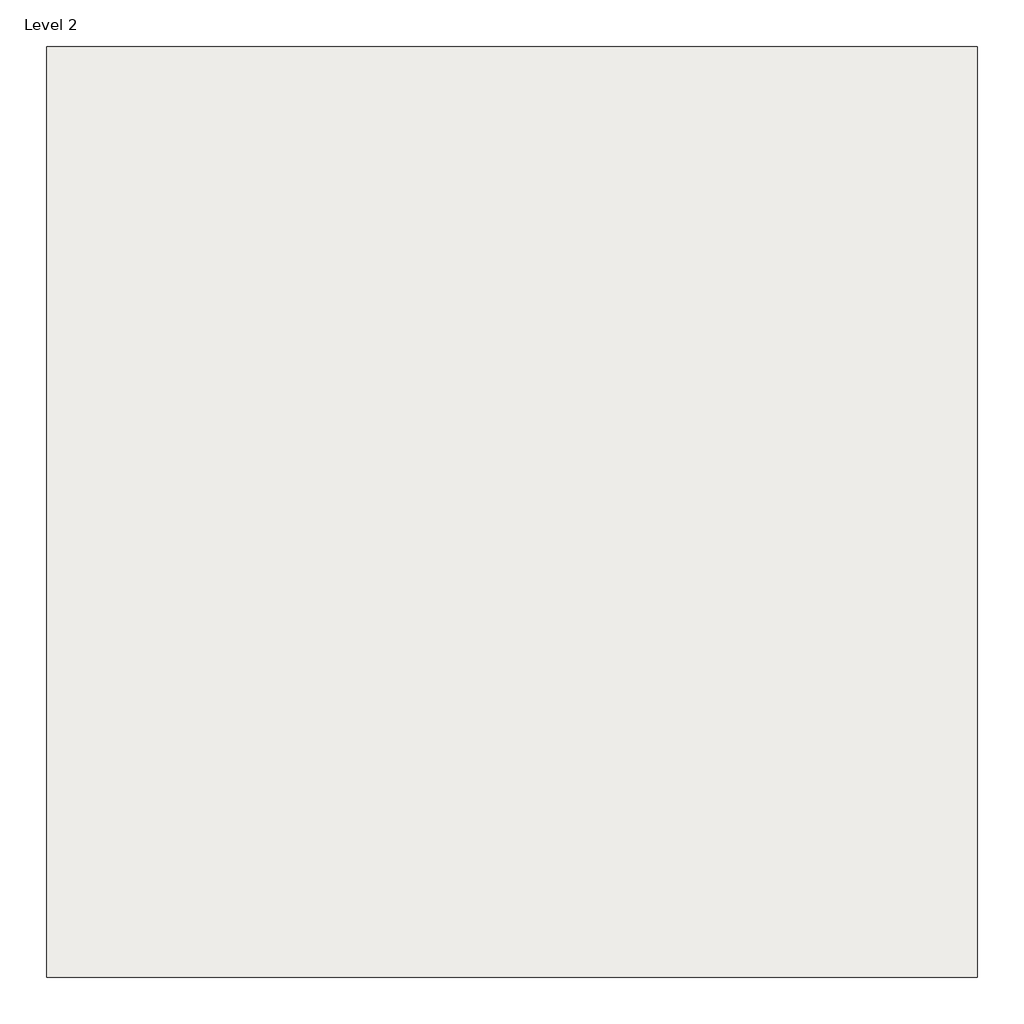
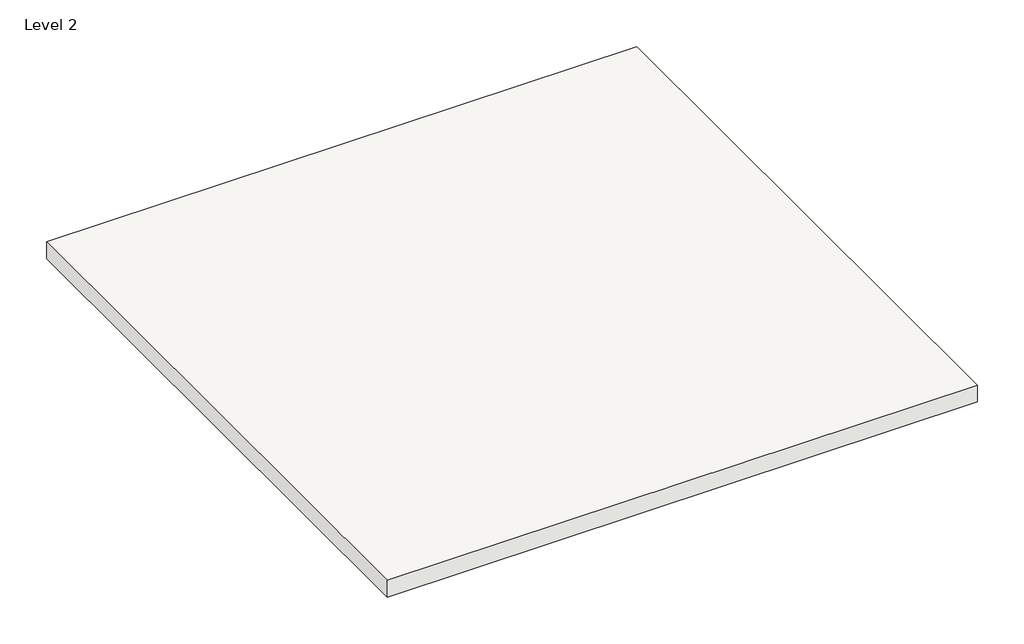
# One storey: 1 slab.
"""IFC4 building model written with IfcOpenShell, lengths in millimetres."""

from ifc_helpers import new_model, si_unit, frame, origin, place, context, project, spatial, polyline, outline, extrude, element, save

model = new_model("IFC4")

# Units and contexts
model_context = context("Model", 3, world=origin())
ifc_project = project(units=[si_unit("LENGTHUNIT", "METRE", prefix="MILLI")], contexts=[model_context])

# Site, building, storey
site = spatial("IfcSite", under=ifc_project)
building = spatial("IfcBuilding", under=site)
storey = spatial("IfcBuildingStorey", under=building, Name="Level 2", Elevation=3000.0)

# Slab
placement = place(None, origin())
element("IfcSlab", 1, ObjectType="Generic 150mm", at=placement, inside=storey, context=model_context, shape_type="SweptSolid", body=[
    extrude(outline(polyline([(5112.2416021, 28626.6149871), (5112.2416021, 23626.6149871), (112.2416021, 23626.6149871), (112.2416021, 28626.6149871), (5112.2416021, 28626.6149871)])), frame((0.0, 0.0, 2850.0), z_axis=(0.0, 0.0, 1.0), x_axis=(1.0, 0.0, 0.0)), (0.0, 0.0, 1.0), 150.0),
])

save(model, "model.ifc")
